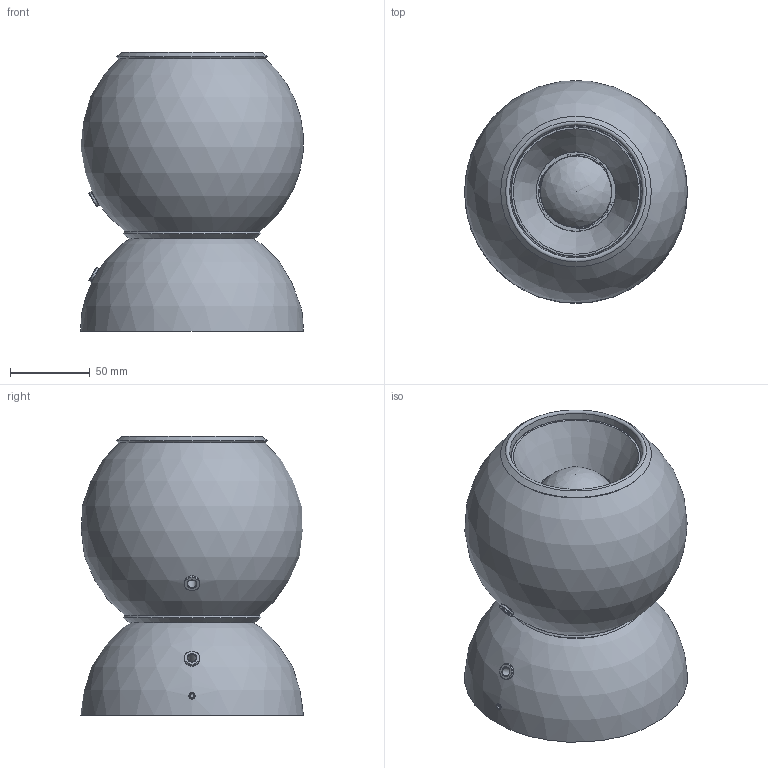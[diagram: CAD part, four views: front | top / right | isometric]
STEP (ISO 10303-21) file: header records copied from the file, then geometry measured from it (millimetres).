
FILE_DESCRIPTION(/* description */ ('Unknown'),/* implementation_level */ '2;1');
FILE_NAME(/* name */ '9717',/* time_stamp */ '2022-09-23T14:27:07+02:00',/* author */ ('Unknown'),/* organization */ ('Unknown'),/* preprocessor_version */ 'ST-DEVELOPER v18.1',/* originating_system */ 'Solid Edge',/* authorisation */ 'Unknown');
FILE_SCHEMA (('AUTOMOTIVE_DESIGN {1 0 10303 214 3 1 1}'));
Length unit declared in the file: millimetre
Products named in the file (12): 9717; 151001808710; 152000409142; R3956-9; 061000417352; 153000348068_oa_0; 151001785710; 060000358351; 060000340356; 152000411142; 061000416352; 060000157352
Assembly tree (13 placements, depth 2):
  9717
    151001808710
    152000409142
    R3956-9  x2
    061000417352
    153000348068_oa_0
    151001785710
    060000358351
    060000340356
    152000411142
    061000416352
    060000157352  x2
Bounding box: 140 x 140 x 175.71 mm (x, y, z)
Volume: 194466.6 mm3; surface area: 239975.1 mm2
Topology: 12 solids, 12 shells, 540 faces, 1443 edges, 933 vertices
Faces by surface type: plane 190, cylinder 100, bspline 99, cone 87, torus 45, sphere 19
Full cylindrical faces by diameter (mm): 2.459 x2, 2.7 x2, 3.242 x2, 4 x4, 4.5 x3, 5 x4, 5.6 x2, 8 x5, 10 x2, 15 x5
Entity records: 22704 total; most frequent: CARTESIAN_POINT 10558, ORIENTED_EDGE 2510, DIRECTION 2127, EDGE_CURVE 1255, AXIS2_PLACEMENT_3D 887, VERTEX_POINT 864, FACE_BOUND 689, EDGE_LOOP 688
